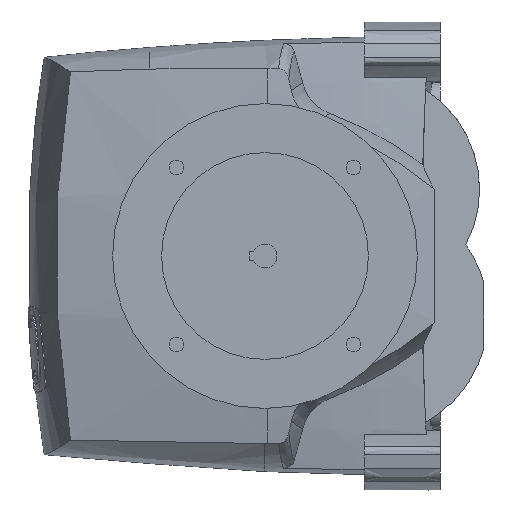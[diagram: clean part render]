
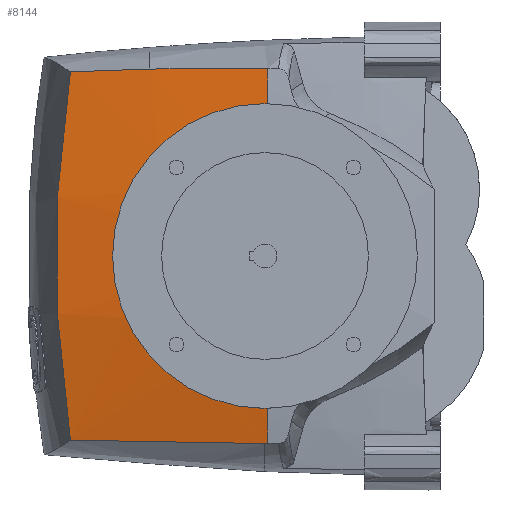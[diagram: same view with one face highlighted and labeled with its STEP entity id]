
A CAD part, left-side view. The second image highlights one B-rep face of the part: STEP entity #8144.
In plain terms, the highlighted free-form (B-spline) face has degree [3, 3] with [4, 4] control points.
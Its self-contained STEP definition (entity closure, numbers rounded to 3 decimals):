
#523=CARTESIAN_POINT('',(-71.642,190.828,84.55));
#524=CARTESIAN_POINT('',(-72.461,191.819,77.769));
#525=CARTESIAN_POINT('',(-73.853,193.608,64.476));
#526=CARTESIAN_POINT('',(-75.297,195.616,45.464));
#527=CARTESIAN_POINT('',(-76.212,196.929,27.073));
#528=CARTESIAN_POINT('',(-76.664,197.51,9.145));
#529=CARTESIAN_POINT('',(-76.671,197.521,-8.615));
#530=CARTESIAN_POINT('',(-76.237,196.915,-26.572));
#531=CARTESIAN_POINT('',(-75.338,195.571,-45.037));
#532=CARTESIAN_POINT('',(-73.883,193.623,-64.202));
#533=CARTESIAN_POINT('',(-72.475,191.829,-77.668));
#534=CARTESIAN_POINT('',(-71.643,190.826,-84.551));
#898=CARTESIAN_POINT('',(-83.155,100.206,86.083));
#899=CARTESIAN_POINT('',(-82.477,106.235,86.166));
#900=CARTESIAN_POINT('',(-81.085,118.288,86.261));
#901=CARTESIAN_POINT('',(-78.898,136.345,86.179));
#902=CARTESIAN_POINT('',(-77.369,148.369,85.979));
#903=CARTESIAN_POINT('',(-76.589,154.374,85.842));
#905=CARTESIAN_POINT('',(-76.589,154.374,85.842));
#915=CARTESIAN_POINT('',(-76.589,154.374,85.842));
#916=CARTESIAN_POINT('',(-76.191,157.442,85.772));
#917=CARTESIAN_POINT('',(-75.39,163.557,85.612));
#918=CARTESIAN_POINT('',(-74.162,172.692,85.318));
#919=CARTESIAN_POINT('',(-72.915,181.784,84.968));
#920=CARTESIAN_POINT('',(-72.068,187.818,84.695));
#921=CARTESIAN_POINT('',(-71.642,190.828,84.55));
#952=CARTESIAN_POINT('',(-82.996,101.609,-86.102));
#953=CARTESIAN_POINT('',(-82.156,109.049,-86.197));
#954=CARTESIAN_POINT('',(-80.425,123.904,-86.278));
#955=CARTESIAN_POINT('',(-77.666,146.209,-86.066));
#956=CARTESIAN_POINT('',(-74.748,168.518,-85.512));
#957=CARTESIAN_POINT('',(-72.696,183.39,-84.91));
#958=CARTESIAN_POINT('',(-71.643,190.826,-84.551));
#980=CARTESIAN_POINT('',(521.61,100.205,0.));
#981=DIRECTION('',(0.,1.,0.));
#982=DIRECTION('',(-0.99,0.,-0.141));
#983=AXIS2_PLACEMENT_3D('',#980,#981,#982);
#985=CARTESIAN_POINT('',(521.61,100.206,0.));
#986=DIRECTION('',(0.,1.,0.));
#987=DIRECTION('',(-0.996,0.,0.089));
#988=AXIS2_PLACEMENT_3D('',#985,#986,#987);
#1071=CARTESIAN_POINT('',(-82.996,101.609,
-86.102));
#1080=CARTESIAN_POINT('',(-82.996,101.609,
-86.102));
#1081=CARTESIAN_POINT('',(-83.008,101.503,
-86.1));
#1082=CARTESIAN_POINT('',(-83.035,101.262,
-86.097));
#1083=CARTESIAN_POINT('',(-83.075,100.91,
-86.093));
#1084=CARTESIAN_POINT('',(-83.115,100.557,
-86.088));
#1085=CARTESIAN_POINT('',(-83.142,100.321,
-86.085));
#1086=CARTESIAN_POINT('',(-83.155,100.204,
-86.083));
#3881=CARTESIAN_POINT('',(-86.828,100.201,
-54.354));
#3883=CARTESIAN_POINT('',(-86.828,100.201,
-54.354));
#3884=CARTESIAN_POINT('',(-86.199,105.84,
-54.455));
#3885=CARTESIAN_POINT('',(-84.945,117.124,
-54.196));
#3886=CARTESIAN_POINT('',(-83.07,133.968,
-52.427));
#3887=CARTESIAN_POINT('',(-81.839,145.065,
-50.333));
#3888=CARTESIAN_POINT('',(-81.224,150.562,
-49.062));
#3890=CARTESIAN_POINT('',(-81.224,150.562,
-49.062));
#3916=CARTESIAN_POINT('',(-81.224,150.562,
-49.062));
#3917=CARTESIAN_POINT('',(-81.628,152.471,
-41.038));
#3918=CARTESIAN_POINT('',(-82.255,155.35,
-24.766));
#3919=CARTESIAN_POINT('',(-82.561,156.8,
0.));
#3920=CARTESIAN_POINT('',(-82.255,155.35,24.766));
#3921=CARTESIAN_POINT('',(-81.628,152.471,41.038));
#3922=CARTESIAN_POINT('',(-81.224,150.562,49.062));
#3936=CARTESIAN_POINT('',(-81.224,150.562,49.062));
#3937=CARTESIAN_POINT('',(-81.839,145.065,50.333));
#3938=CARTESIAN_POINT('',(-83.071,133.968,52.426));
#3939=CARTESIAN_POINT('',(-84.947,117.123,54.196));
#3940=CARTESIAN_POINT('',(-86.2,105.84,54.455));
#3941=CARTESIAN_POINT('',(-86.828,100.2,54.353));
#6013=VERTEX_POINT('',#3890);
#6014=VERTEX_POINT('',#3922);
#6018=VERTEX_POINT('',#3881);
#6022=VERTEX_POINT('',#3941);
#6023=CARTESIAN_POINT('',(-83.155,100.205,
-86.083));
#6024=VERTEX_POINT('',#6023);
#6025=VERTEX_POINT('',#523);
#6026=VERTEX_POINT('',#534);
#6027=CARTESIAN_POINT('',(-83.155,100.206,86.082));
#6028=VERTEX_POINT('',#6027);
#6810=VERTEX_POINT('',#1071);
#6814=VERTEX_POINT('',#905);
#8108=CARTESIAN_POINT('',(-82.76,98.248,
-90.265));
#8109=CARTESIAN_POINT('',(-79.127,132.072,
-89.722));
#8110=CARTESIAN_POINT('',(-74.804,165.814,
-89.077));
#8111=CARTESIAN_POINT('',(-69.794,199.457,
-88.328));
#8112=CARTESIAN_POINT('',(-91.715,98.248,
-30.31));
#8113=CARTESIAN_POINT('',(-88.028,132.072,
-30.128));
#8114=CARTESIAN_POINT('',(-83.641,165.814,
-29.911));
#8115=CARTESIAN_POINT('',(-78.556,199.457,
-29.66));
#8116=CARTESIAN_POINT('',(-91.715,98.248,30.31));
#8117=CARTESIAN_POINT('',(-88.028,132.072,30.128));
#8118=CARTESIAN_POINT('',(-83.641,165.814,29.911));
#8119=CARTESIAN_POINT('',(-78.556,199.457,29.66));
#8120=CARTESIAN_POINT('',(-82.76,98.248,90.265));
#8121=CARTESIAN_POINT('',(-79.127,132.072,89.722));
#8122=CARTESIAN_POINT('',(-74.804,165.814,89.077));
#8123=CARTESIAN_POINT('',(-69.794,199.457,88.328));
#8124=(BOUNDED_SURFACE()B_SPLINE_SURFACE(3,3,((#8108,#8109,#8110,#8111),(#8112,
#8113,#8114,#8115),(#8116,#8117,#8118,#8119),(#8120,#8121,#8122,#8123)),
.UNSPECIFIED.,.F.,.F.,.F.)B_SPLINE_SURFACE_WITH_KNOTS((4,4),(4,4),(0.,1.),(
0.,1.),.UNSPECIFIED.)GEOMETRIC_REPRESENTATION_ITEM()RATIONAL_B_SPLINE_SURFACE(((1.006,1.005,1.005,1.006),(
0.998,0.998,0.998,0.998),(
0.998,0.998,0.998,0.998),(
1.006,1.005,1.005,1.006)))REPRESENTATION_ITEM('')SURFACE());
#8125=ORIENTED_EDGE('',*,*,#8094,.F.);
#8126=ORIENTED_EDGE('',*,*,#8027,.F.);
#8128=ORIENTED_EDGE('',*,*,#8127,.F.);
#8130=ORIENTED_EDGE('',*,*,#8129,.F.);
#8132=ORIENTED_EDGE('',*,*,#8131,.F.);
#8134=ORIENTED_EDGE('',*,*,#8133,.F.);
#8136=ORIENTED_EDGE('',*,*,#8135,.F.);
#8138=ORIENTED_EDGE('',*,*,#8137,.F.);
#8140=ORIENTED_EDGE('',*,*,#8139,.T.);
#8141=ORIENTED_EDGE('',*,*,#7670,.F.);
#8142=EDGE_LOOP('',(#8125,#8126,#8128,#8130,#8132,#8134,#8136,#8138,#8140,
#8141));
#8143=FACE_OUTER_BOUND('',#8142,.F.);
#8144=ADVANCED_FACE('',(#8143),#8124,.T.);
#535=B_SPLINE_CURVE_WITH_KNOTS('',3,(#523,#524,#525,#526,#527,#528,#529,#530,
#531,#532,#533,#534),.UNSPECIFIED.,.F.,.F.,(4,1,1,1,1,1,1,1,1,4),(0.,
0.111,0.222,0.333,0.444,
0.556,0.667,0.778,0.889,1.),
.UNSPECIFIED.);
#904=B_SPLINE_CURVE_WITH_KNOTS('',3,(#898,#899,#900,#901,#902,#903),
.UNSPECIFIED.,.F.,.F.,(4,1,1,4),(0.,0.333,0.667,1.),
.UNSPECIFIED.);
#922=B_SPLINE_CURVE_WITH_KNOTS('',3,(#915,#916,#917,#918,#919,#920,#921),
.UNSPECIFIED.,.F.,.F.,(4,1,1,1,4),(0.,0.25,0.5,0.75,1.),
.UNSPECIFIED.);
#959=B_SPLINE_CURVE_WITH_KNOTS('',3,(#952,#953,#954,#955,#956,#957,#958),
.UNSPECIFIED.,.F.,.F.,(4,1,1,1,4),(0.,0.25,0.5,0.75,1.),
.UNSPECIFIED.);
#984=CIRCLE('',#983,610.861);
#989=CIRCLE('',#988,610.861);
#1087=B_SPLINE_CURVE_WITH_KNOTS('',3,(#1080,#1081,#1082,#1083,#1084,#1085,
#1086),.UNSPECIFIED.,.F.,.F.,(4,1,1,1,4),(0.,0.25,0.5,0.75,1.),
.UNSPECIFIED.);
#3889=B_SPLINE_CURVE_WITH_KNOTS('',3,(#3883,#3884,#3885,#3886,#3887,#3888),
.UNSPECIFIED.,.F.,.F.,(4,1,1,4),(0.,0.333,0.667,1.),
.UNSPECIFIED.);
#3923=B_SPLINE_CURVE_WITH_KNOTS('',3,(#3916,#3917,#3918,#3919,#3920,#3921,
#3922),.UNSPECIFIED.,.F.,.F.,(4,1,1,1,4),(0.,0.25,0.5,0.75,1.),
.UNSPECIFIED.);
#3942=B_SPLINE_CURVE_WITH_KNOTS('',3,(#3936,#3937,#3938,#3939,#3940,#3941),
.UNSPECIFIED.,.F.,.F.,(4,1,1,4),(0.,0.333,0.667,1.),
.UNSPECIFIED.);
#7670=EDGE_CURVE('',#6025,#6026,#535,.T.);
#8027=EDGE_CURVE('',#6028,#6814,#904,.T.);
#8094=EDGE_CURVE('',#6814,#6025,#922,.T.);
#8127=EDGE_CURVE('',#6022,#6028,#989,.T.);
#8129=EDGE_CURVE('',#6014,#6022,#3942,.T.);
#8131=EDGE_CURVE('',#6013,#6014,#3923,.T.);
#8133=EDGE_CURVE('',#6018,#6013,#3889,.T.);
#8135=EDGE_CURVE('',#6024,#6018,#984,.T.);
#8137=EDGE_CURVE('',#6810,#6024,#1087,.T.);
#8139=EDGE_CURVE('',#6810,#6026,#959,.T.);
